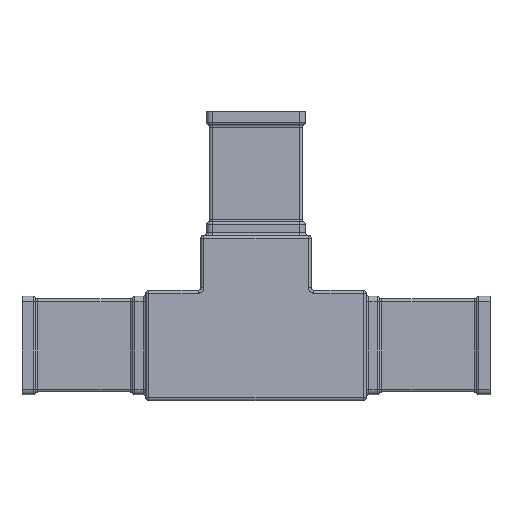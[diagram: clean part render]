
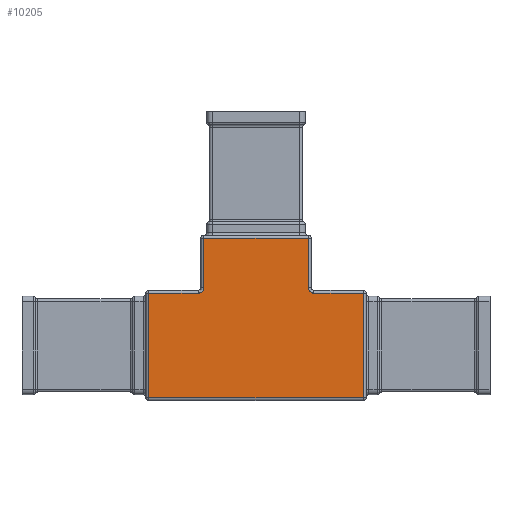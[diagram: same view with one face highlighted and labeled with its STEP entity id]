
A CAD part, front view. The second image highlights one B-rep face of the part: STEP entity #10205.
In plain terms, the highlighted planar face has unit normal (0, -1, 0).
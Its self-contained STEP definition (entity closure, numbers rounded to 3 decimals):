
#110 = EDGE_CURVE ( 'NONE', #3868, #7736, #520, .T. ) ;
#183 = CARTESIAN_POINT ( 'NONE',  ( -21., 0., 19. ) ) ;
#319 = VECTOR ( 'NONE', #5465, 1000. ) ;
#353 = VECTOR ( 'NONE', #710, 1000. ) ;
#368 = CARTESIAN_POINT ( 'NONE',  ( 39., 0., 19. ) ) ;
#469 = CARTESIAN_POINT ( 'NONE',  ( 19., 0., 0. ) ) ;
#520 = LINE ( 'NONE', #1496, #11072 ) ;
#525 = CARTESIAN_POINT ( 'NONE',  ( 20.473, 0., 19.069 ) ) ;
#691 = CARTESIAN_POINT ( 'NONE',  ( 20.293, 0., 19.129 ) ) ;
#710 = DIRECTION ( 'NONE',  ( -1., 0., 0. ) ) ;
#923 = CARTESIAN_POINT ( 'NONE',  ( -19.242, 0., 20.007 ) ) ;
#1018 = CARTESIAN_POINT ( 'NONE',  ( -19., 0., 0. ) ) ;
#1161 = CARTESIAN_POINT ( 'NONE',  ( -19., 0., 20.873 ) ) ;
#1200 = CARTESIAN_POINT ( 'NONE',  ( 0., 0., 19. ) ) ;
#1363 = CARTESIAN_POINT ( 'NONE',  ( -19., 0., 21. ) ) ;
#1387 = CARTESIAN_POINT ( 'NONE',  ( 19.488, 0., 19.683 ) ) ;
#1412 = VERTEX_POINT ( 'NONE', #4159 ) ;
#1496 = CARTESIAN_POINT ( 'NONE',  ( 39., 0., 0. ) ) ;
#1777 = CARTESIAN_POINT ( 'NONE',  ( -20.5, 0., 19.047 ) ) ;
#1904 = DIRECTION ( 'NONE',  ( 0., 0., -1. ) ) ;
#1925 = EDGE_CURVE ( 'NONE', #7736, #8169, #2378, .T. ) ;
#1958 = CARTESIAN_POINT ( 'NONE',  ( -19.069, 0., 20.473 ) ) ;
#1974 = CARTESIAN_POINT ( 'NONE',  ( 0., 0., -19. ) ) ;
#2161 = CARTESIAN_POINT ( 'NONE',  ( 21., 0., 19. ) ) ;
#2220 = EDGE_CURVE ( 'NONE', #1412, #10503, #5786, .T. ) ;
#2229 = EDGE_CURVE ( 'NONE', #8169, #1412, #8236, .T. ) ;
#2362 = CARTESIAN_POINT ( 'NONE',  ( 20.28, 0., 19.134 ) ) ;
#2378 = LINE ( 'NONE', #6676, #353 ) ;
#2419 = CARTESIAN_POINT ( 'NONE',  ( 19.359, 0., 19.841 ) ) ;
#2451 = DIRECTION ( 'NONE',  ( -1., 0., 0. ) ) ;
#2533 = CARTESIAN_POINT ( 'NONE',  ( 0., 0., 0. ) ) ;
#2647 = VERTEX_POINT ( 'NONE', #8836 ) ;
#2710 = CARTESIAN_POINT ( 'NONE',  ( -19.118, 0., 20.323 ) ) ;
#3083 = ORIENTED_EDGE ( 'NONE', *, *, #11162, .T. ) ;
#3137 = CARTESIAN_POINT ( 'NONE',  ( -19., 0., 39. ) ) ;
#3179 = CARTESIAN_POINT ( 'NONE',  ( 19., 0., 39. ) ) ;
#3271 = LINE ( 'NONE', #3333, #10703 ) ;
#3306 = VECTOR ( 'NONE', #8152, 1000. ) ;
#3333 = CARTESIAN_POINT ( 'NONE',  ( 0., 0., 39. ) ) ;
#3354 = CARTESIAN_POINT ( 'NONE',  ( 19., 0., 20.745 ) ) ;
#3709 = ORIENTED_EDGE ( 'NONE', *, *, #2229, .T. ) ;
#3725 = DIRECTION ( 'NONE',  ( 0., 0., -1. ) ) ;
#3733 = ORIENTED_EDGE ( 'NONE', *, *, #110, .T. ) ;
#3809 = CARTESIAN_POINT ( 'NONE',  ( -19.391, 0., 19.781 ) ) ;
#3826 = LINE ( 'NONE', #1974, #7698 ) ;
#3868 = VERTEX_POINT ( 'NONE', #7324 ) ;
#3911 = VERTEX_POINT ( 'NONE', #1363 ) ;
#4103 = CARTESIAN_POINT ( 'NONE',  ( 20.368, 0., 19.102 ) ) ;
#4159 = CARTESIAN_POINT ( 'NONE',  ( 19., 0., 21. ) ) ;
#4161 = CARTESIAN_POINT ( 'NONE',  ( 19.153, 0., 20.232 ) ) ;
#4219 = CARTESIAN_POINT ( 'NONE',  ( 19.24, 0., 20.046 ) ) ;
#4462 = DIRECTION ( 'NONE',  ( 0., -1., 0. ) ) ;
#4514 = CARTESIAN_POINT ( 'NONE',  ( -20.249, 0., 19.146 ) ) ;
#4639 = CARTESIAN_POINT ( 'NONE',  ( -19.018, 0., 20.686 ) ) ;
#4867 = CARTESIAN_POINT ( 'NONE',  ( 20.007, 0., 19.242 ) ) ;
#4974 = CARTESIAN_POINT ( 'NONE',  ( 19., 0., 21. ) ) ;
#5029 = CARTESIAN_POINT ( 'NONE',  ( 20.873, 0., 19. ) ) ;
#5080 = DIRECTION ( 'NONE',  ( 0., 0., 1. ) ) ;
#5308 = CARTESIAN_POINT ( 'NONE',  ( -20.745, 0., 19. ) ) ;
#5374 = CARTESIAN_POINT ( 'NONE',  ( -19.134, 0., 20.28 ) ) ;
#5465 = DIRECTION ( 'NONE',  ( 0., 0., -1. ) ) ;
#5491 = CARTESIAN_POINT ( 'NONE',  ( -19.129, 0., 20.293 ) ) ;
#5532 = EDGE_LOOP ( 'NONE', ( #3709, #6331, #11077, #3083, #6433, #8814, #10174, #7194, #3733, #7278 ) ) ;
#5668 = AXIS2_PLACEMENT_3D ( 'NONE', #2533, #4462, #1904 ) ;
#5732 = CARTESIAN_POINT ( 'NONE',  ( 19.781, 0., 19.391 ) ) ;
#5786 = LINE ( 'NONE', #469, #7734 ) ;
#5953 = CARTESIAN_POINT ( 'NONE',  ( 21., 0., 19. ) ) ;
#6014 = B_SPLINE_CURVE_WITH_KNOTS ( 'NONE', 3,
 ( #9901, #1161, #4639, #1958, #7171, #2710, #5491, #5374, #923, #3809, #9789, #8915, #6242, #10888, #9721, #10828, #4514, #1777, #5308, #183 ),
 .UNSPECIFIED., .F., .F.,
 ( 4, 1, 1, 1, 2, 2, 2, 1, 1, 1, 2, 2, 4 ),
 ( 0., 0.125, 0.188, 0.219, 0.234, 0.25, 0.5, 0.625, 0.687, 0.719, 0.734, 0.75, 1. ),
 .UNSPECIFIED. ) ;
#6242 = CARTESIAN_POINT ( 'NONE',  ( -20.046, 0., 19.24 ) ) ;
#6331 = ORIENTED_EDGE ( 'NONE', *, *, #2220, .T. ) ;
#6433 = ORIENTED_EDGE ( 'NONE', *, *, #7886, .T. ) ;
#6605 = DIRECTION ( 'NONE',  ( 1., 0., 0. ) ) ;
#6676 = CARTESIAN_POINT ( 'NONE',  ( 0., 0., 19. ) ) ;
#6811 = EDGE_CURVE ( 'NONE', #2647, #8618, #10929, .T. ) ;
#6939 = PLANE ( 'NONE',  #5668 ) ;
#6988 = EDGE_CURVE ( 'NONE', #10503, #7609, #3271, .T. ) ;
#7171 = CARTESIAN_POINT ( 'NONE',  ( -19.102, 0., 20.368 ) ) ;
#7194 = ORIENTED_EDGE ( 'NONE', *, *, #9994, .T. ) ;
#7278 = ORIENTED_EDGE ( 'NONE', *, *, #1925, .T. ) ;
#7324 = CARTESIAN_POINT ( 'NONE',  ( 39., 0., -19. ) ) ;
#7380 = LINE ( 'NONE', #1018, #319 ) ;
#7396 = VECTOR ( 'NONE', #3725, 1000. ) ;
#7517 = DIRECTION ( 'NONE',  ( 0., 0., 1. ) ) ;
#7609 = VERTEX_POINT ( 'NONE', #3137 ) ;
#7698 = VECTOR ( 'NONE', #6605, 1000. ) ;
#7734 = VECTOR ( 'NONE', #5080, 1000. ) ;
#7736 = VERTEX_POINT ( 'NONE', #368 ) ;
#7886 = EDGE_CURVE ( 'NONE', #3911, #2647, #6014, .T. ) ;
#8152 = DIRECTION ( 'NONE',  ( -1., 0., 0. ) ) ;
#8169 = VERTEX_POINT ( 'NONE', #2161 ) ;
#8193 = EDGE_CURVE ( 'NONE', #8618, #11105, #8199, .T. ) ;
#8199 = LINE ( 'NONE', #8255, #7396 ) ;
#8236 = B_SPLINE_CURVE_WITH_KNOTS ( 'NONE', 3,
 ( #5953, #5029, #11226, #525, #4103, #10303, #691, #2362, #4867, #5732, #1387, #2419, #4219, #10364, #9439, #4161, #8463, #9493, #3354, #4974 ),
 .UNSPECIFIED., .F., .F.,
 ( 4, 1, 1, 1, 2, 2, 2, 1, 1, 1, 2, 2, 4 ),
 ( 0., 0.125, 0.187, 0.219, 0.234, 0.25, 0.5, 0.625, 0.687, 0.719, 0.734, 0.75, 1. ),
 .UNSPECIFIED. ) ;
#8255 = CARTESIAN_POINT ( 'NONE',  ( -39., 0., 0. ) ) ;
#8463 = CARTESIAN_POINT ( 'NONE',  ( 19.146, 0., 20.249 ) ) ;
#8618 = VERTEX_POINT ( 'NONE', #9323 ) ;
#8814 = ORIENTED_EDGE ( 'NONE', *, *, #6811, .T. ) ;
#8836 = CARTESIAN_POINT ( 'NONE',  ( -21., 0., 19. ) ) ;
#8915 = CARTESIAN_POINT ( 'NONE',  ( -19.841, 0., 19.359 ) ) ;
#9323 = CARTESIAN_POINT ( 'NONE',  ( -39., 0., 19. ) ) ;
#9439 = CARTESIAN_POINT ( 'NONE',  ( 19.167, 0., 20.2 ) ) ;
#9493 = CARTESIAN_POINT ( 'NONE',  ( 19.047, 0., 20.5 ) ) ;
#9721 = CARTESIAN_POINT ( 'NONE',  ( -20.2, 0., 19.167 ) ) ;
#9789 = CARTESIAN_POINT ( 'NONE',  ( -19.683, 0., 19.488 ) ) ;
#9852 = FACE_OUTER_BOUND ( 'NONE', #5532, .T. ) ;
#9901 = CARTESIAN_POINT ( 'NONE',  ( -19., 0., 21. ) ) ;
#9994 = EDGE_CURVE ( 'NONE', #11105, #3868, #3826, .T. ) ;
#10174 = ORIENTED_EDGE ( 'NONE', *, *, #8193, .T. ) ;
#10205 = ADVANCED_FACE ( 'NONE', ( #9852 ), #6939, .T. ) ;
#10303 = CARTESIAN_POINT ( 'NONE',  ( 20.323, 0., 19.118 ) ) ;
#10364 = CARTESIAN_POINT ( 'NONE',  ( 19.188, 0., 20.153 ) ) ;
#10503 = VERTEX_POINT ( 'NONE', #3179 ) ;
#10703 = VECTOR ( 'NONE', #2451, 1000. ) ;
#10804 = CARTESIAN_POINT ( 'NONE',  ( -39., 0., -19. ) ) ;
#10828 = CARTESIAN_POINT ( 'NONE',  ( -20.232, 0., 19.153 ) ) ;
#10888 = CARTESIAN_POINT ( 'NONE',  ( -20.153, 0., 19.188 ) ) ;
#10929 = LINE ( 'NONE', #1200, #3306 ) ;
#11072 = VECTOR ( 'NONE', #7517, 1000. ) ;
#11077 = ORIENTED_EDGE ( 'NONE', *, *, #6988, .T. ) ;
#11105 = VERTEX_POINT ( 'NONE', #10804 ) ;
#11162 = EDGE_CURVE ( 'NONE', #7609, #3911, #7380, .T. ) ;
#11226 = CARTESIAN_POINT ( 'NONE',  ( 20.686, 0., 19.018 ) ) ;
